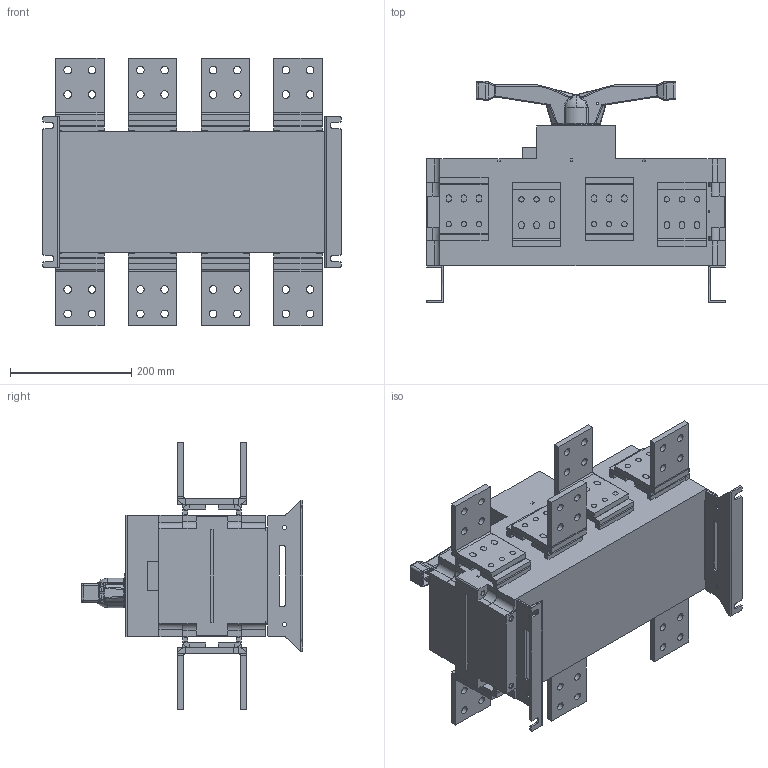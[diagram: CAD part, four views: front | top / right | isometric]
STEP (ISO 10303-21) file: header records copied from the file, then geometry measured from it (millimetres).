
FILE_DESCRIPTION (( 'STEP AP214' ), '1' );
FILE_NAME ('DNH89HGL)-25004外形模型.STEP', '2022-08-11T07:43:54', ( '微软用户' ), ( '微软中国' ), 'SwSTEP 2.0', 'SolidWorks 2019', '' );
FILE_SCHEMA (( 'AUTOMOTIVE_DESIGN' ));
Length unit declared in the file: millimetre
Products named in the file (1): DNH89HGL)-25004俋倛耀倰
Bounding box: 493 x 365.7 x 442 mm (x, y, z)
Volume: 20435943.2 mm3; surface area: 1534690.4 mm2
Topology: 34 solids, 43 shells, 2386 faces, 6131 edges, 3880 vertices
Faces by surface type: plane 1575, cylinder 660, bspline 80, cone 53, torus 18
Entity records: 102536 total; most frequent: CARTESIAN_POINT 17738, ORIENTED_EDGE 12216, DIRECTION 11779, EDGE_CURVE 6108, VECTOR 4399, LINE 4399, VERTEX_POINT 3880, AXIS2_PLACEMENT_3D 3690
